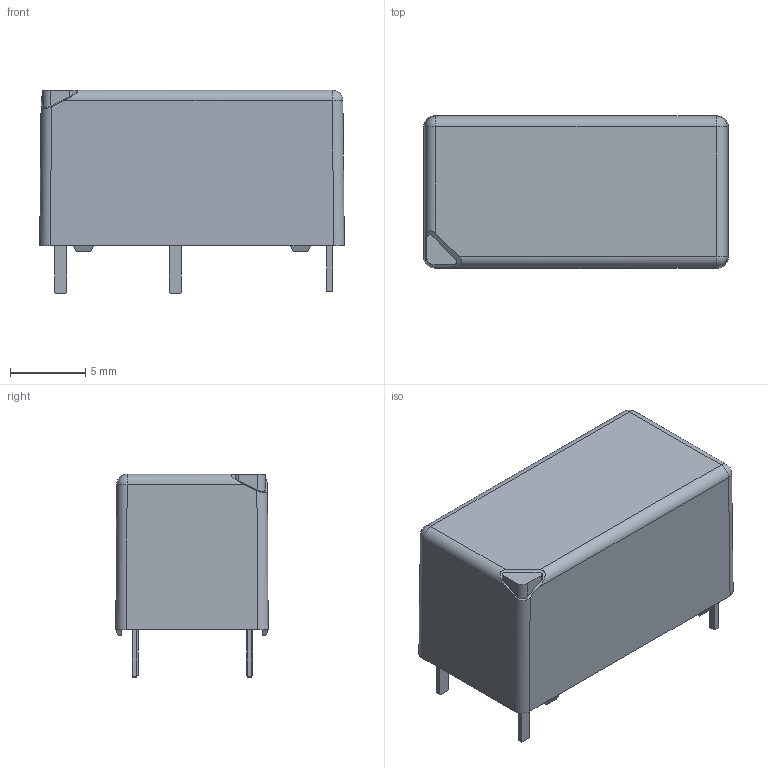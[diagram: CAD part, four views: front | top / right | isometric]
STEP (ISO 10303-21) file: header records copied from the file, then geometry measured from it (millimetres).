
FILE_DESCRIPTION( ( 'Unknown' ), '1' );
FILE_NAME( 'H:/Disegni/Lavori in sospeso/Catalogo/32_21/3221 senza iniezione.stp', 'Unknown', ( 'Unknown' ), ( 'Unknown' ), 'PSStep 15.0.49', 'Unknown', ' ' );
FILE_SCHEMA( ( 'AUTOMOTIVE_DESIGN { 1 0 10303 214 1 1 1 1 }' ) );
Length unit declared in the file: millimetre
Products named in the file (1): 1
Bounding box: 20.2 x 10.1 x 13.5 mm (x, y, z)
Volume: 2074 mm3; surface area: 1030.4 mm2
Topology: 1 solids, 1 shells, 78 faces, 193 edges, 121 vertices
Faces by surface type: plane 63, cylinder 12, sphere 3
Full cylindrical faces by diameter (mm): 2.8 x1
Entity records: 2877 total; most frequent: CARTESIAN_POINT 389, ORIENTED_EDGE 378, DIRECTION 371, EDGE_CURVE 189, LINE 165, VECTOR 165, VERTEX_POINT 121, AXIS2_PLACEMENT_3D 103
